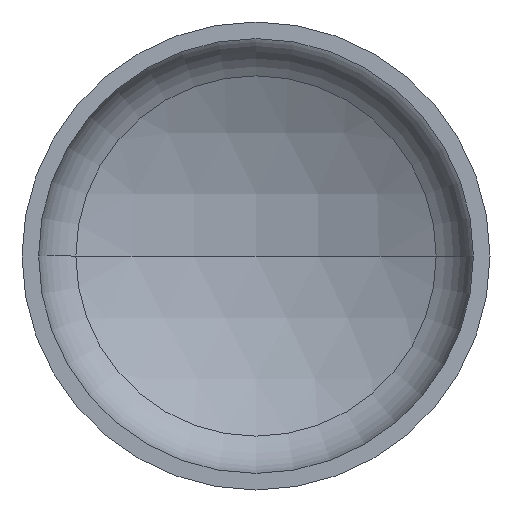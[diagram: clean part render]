
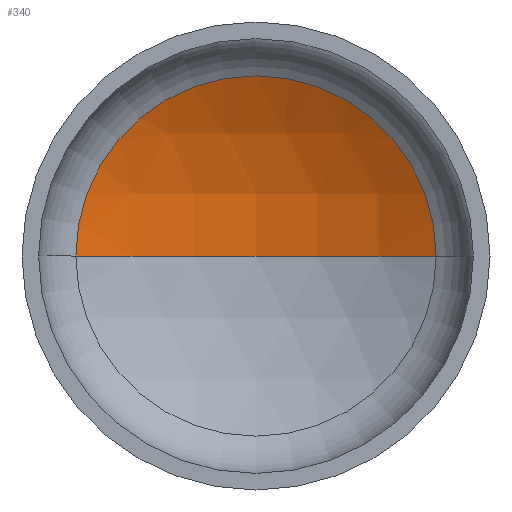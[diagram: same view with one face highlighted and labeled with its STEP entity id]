
A CAD part, front view. The second image highlights one B-rep face of the part: STEP entity #340.
In plain terms, the highlighted spherical face has radius 406 mm.
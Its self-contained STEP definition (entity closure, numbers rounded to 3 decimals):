
#2 = VERTEX_POINT ( 'NONE', #253 ) ;
#9 = EDGE_LOOP ( 'NONE', ( #98, #62, #86 ) ) ;
#32 = AXIS2_PLACEMENT_3D ( 'NONE', #276, #120, #411 ) ;
#37 = AXIS2_PLACEMENT_3D ( 'NONE', #204, #206, #332 ) ;
#40 = DIRECTION ( 'NONE',  ( 0., 0., -1. ) ) ;
#46 = AXIS2_PLACEMENT_3D ( 'NONE', #173, #40, #389 ) ;
#54 = AXIS2_PLACEMENT_3D ( 'NONE', #157, #153, #156 ) ;
#62 = ORIENTED_EDGE ( 'NONE', *, *, #347, .T. ) ;
#76 = VERTEX_POINT ( 'NONE', #245 ) ;
#86 = ORIENTED_EDGE ( 'NONE', *, *, #341, .T. ) ;
#98 = ORIENTED_EDGE ( 'NONE', *, *, #353, .F. ) ;
#120 = DIRECTION ( 'NONE',  ( 0., 0., 1. ) ) ;
#134 = CIRCLE ( 'NONE', #37, 406. ) ;
#153 = DIRECTION ( 'NONE',  ( 0., -1., 0. ) ) ;
#156 = DIRECTION ( 'NONE',  ( 1., 0., 0. ) ) ;
#157 = CARTESIAN_POINT ( 'NONE',  ( 0., 123.354, 0. ) ) ;
#173 = CARTESIAN_POINT ( 'NONE',  ( 0., -232.437, 0. ) ) ;
#176 = CARTESIAN_POINT ( 'NONE',  ( 195.573, 123.354, 0. ) ) ;
#203 = CIRCLE ( 'NONE', #54, 195.573 ) ;
#204 = CARTESIAN_POINT ( 'NONE',  ( 0., -232.437, 0. ) ) ;
#206 = DIRECTION ( 'NONE',  ( 0., 0., -1. ) ) ;
#245 = CARTESIAN_POINT ( 'NONE',  ( -195.573, 123.354, 0. ) ) ;
#253 = CARTESIAN_POINT ( 'NONE',  ( 0., 173.563, 0. ) ) ;
#264 = VERTEX_POINT ( 'NONE', #176 ) ;
#268 = SPHERICAL_SURFACE ( 'NONE', #46, 406. ) ;
#276 = CARTESIAN_POINT ( 'NONE',  ( 0., -232.437, 0. ) ) ;
#320 = CIRCLE ( 'NONE', #32, 406. ) ;
#331 = FACE_OUTER_BOUND ( 'NONE', #9, .T. ) ;
#332 = DIRECTION ( 'NONE',  ( -1., 0., 0. ) ) ;
#340 = ADVANCED_FACE ( 'NONE', ( #331 ), #268, .F. ) ;
#341 = EDGE_CURVE ( 'NONE', #264, #76, #203, .T. ) ;
#347 = EDGE_CURVE ( 'NONE', #2, #264, #134, .T. ) ;
#353 = EDGE_CURVE ( 'NONE', #2, #76, #320, .T. ) ;
#389 = DIRECTION ( 'NONE',  ( -1., 0., 0. ) ) ;
#411 = DIRECTION ( 'NONE',  ( 1., 0., 0. ) ) ;
